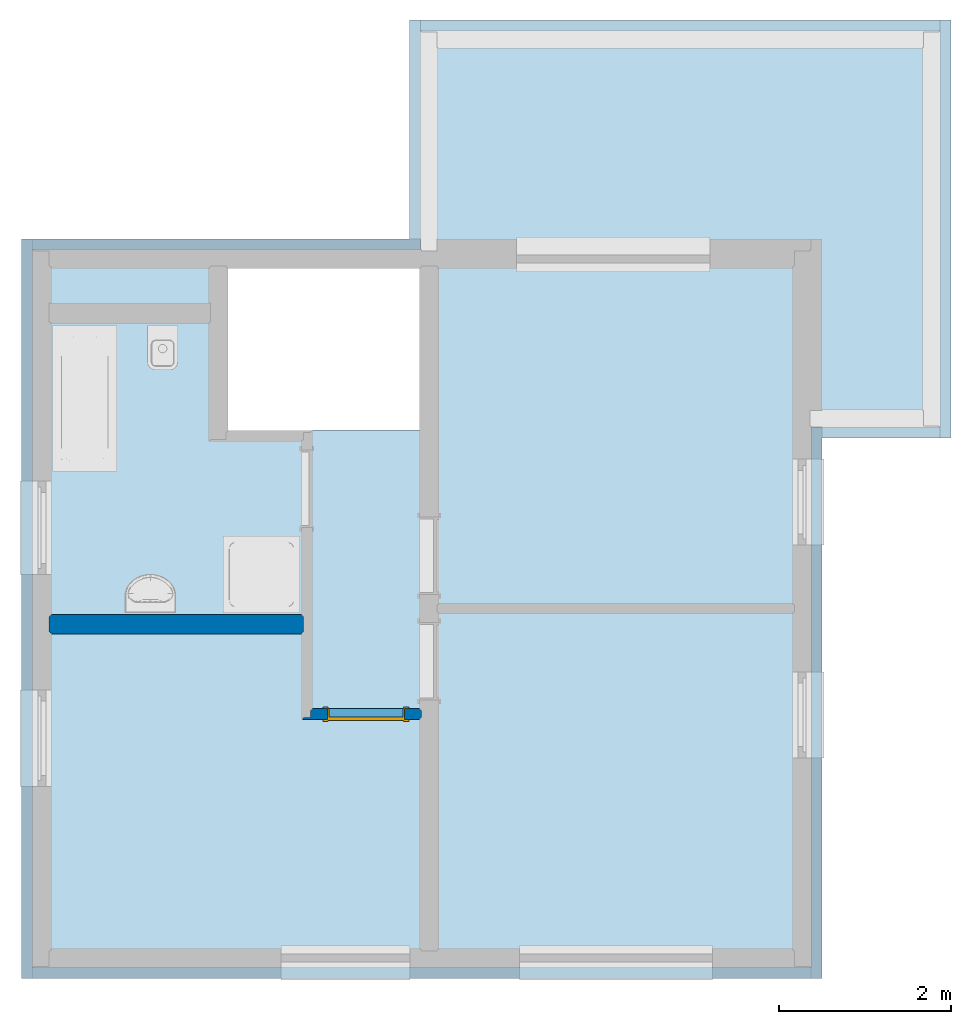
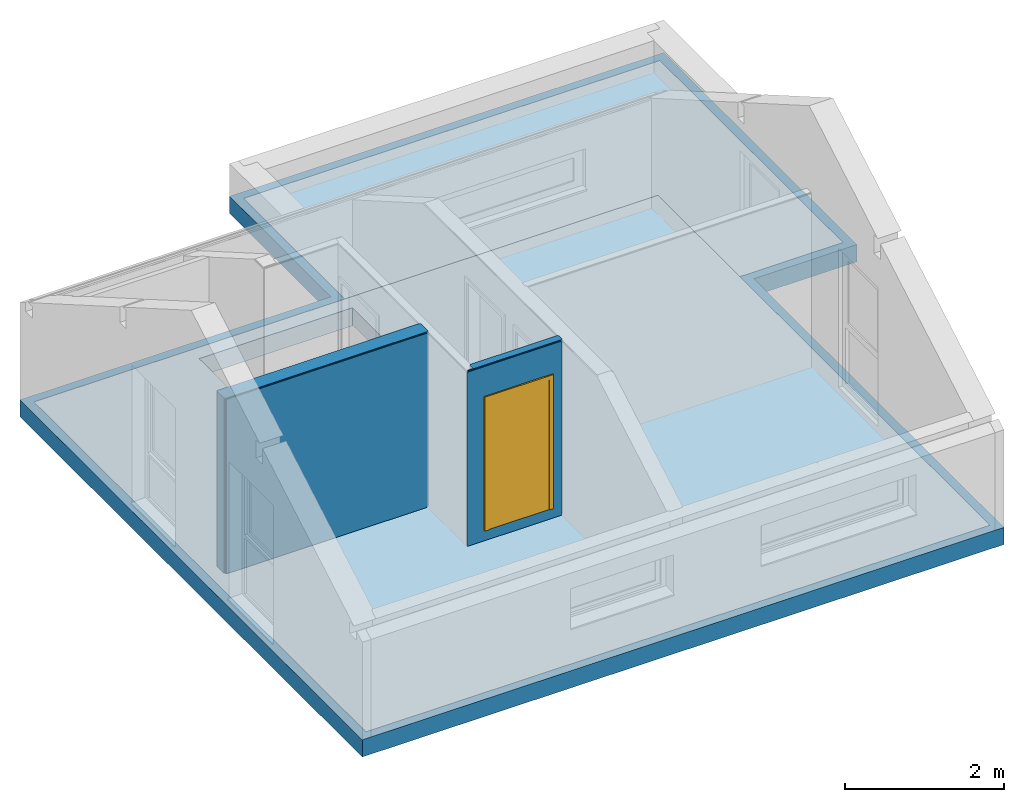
# One storey, part 1 of 7: 3 slabs, 2 walls, 1 door, 3 openings.
"""IFC2X3 building model written with IfcOpenShell, lengths in millimetres."""

from ifc_helpers import new_model, entity, si_unit, converted_unit, derived_unit, money_unit, direction, frame, origin_with_axes, place, context, subcontext, project, spatial, faceted_brep, material, material_list, type_object, element, fill, save


model = new_model("IFC2X3")

# Units and contexts
model_context = context("Model", 3, precision=0.01, world=origin_with_axes(), true_north=direction((0.0, 1.0)))
body_context = subcontext(model_context, "Body", "Model", "MODEL_VIEW")
ifc_project = project(units=[si_unit("LENGTHUNIT", "METRE", prefix="MILLI"), si_unit("AREAUNIT", "SQUARE_METRE"), si_unit("VOLUMEUNIT", "CUBIC_METRE"), converted_unit("PLANEANGLEUNIT", "DEGREE", entity("IfcPlaneAngleMeasure", 0.0174532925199), si_unit("PLANEANGLEUNIT", "RADIAN"), dimensions=[0, 0, 0, 0, 0, 0, 0]), si_unit("SOLIDANGLEUNIT", "STERADIAN"), money_unit("USD"), converted_unit("TIMEUNIT", "Year", entity("IfcTimeMeasure", 31556926.0), si_unit("TIMEUNIT", "SECOND"), dimensions=[0, 0, 1, 0, 0, 0, 0]), si_unit("MASSUNIT", "GRAM", prefix="KILO"), si_unit("THERMODYNAMICTEMPERATUREUNIT", "DEGREE_CELSIUS"), si_unit("LUMINOUSINTENSITYUNIT", "LUMEN"), si_unit("ENERGYUNIT", "JOULE", prefix="MEGA"), derived_unit("THERMALCONDUCTANCEUNIT", [(si_unit("POWERUNIT", "WATT"), 1), (si_unit("LENGTHUNIT", "METRE"), -1), (si_unit("THERMODYNAMICTEMPERATUREUNIT", "KELVIN"), -1)]), derived_unit("SPECIFICHEATCAPACITYUNIT", [(si_unit("ENERGYUNIT", "JOULE"), 1), (si_unit("MASSUNIT", "GRAM", prefix="KILO"), -1), (si_unit("THERMODYNAMICTEMPERATUREUNIT", "KELVIN"), -1)]), derived_unit("MASSDENSITYUNIT", [(si_unit("MASSUNIT", "GRAM", prefix="KILO"), 1), (si_unit("VOLUMEUNIT", "CUBIC_METRE"), -1)])], contexts=[model_context])

# Site, building, storey
site_placement = place(None, origin_with_axes())
site = spatial("IfcSite", under=ifc_project, at=site_placement, Name="Lokalizacja", CompositionType="ELEMENT")
building_placement = place(site_placement, origin_with_axes())
building = spatial("IfcBuilding", under=site, at=building_placement, Name="Budynek", CompositionType="ELEMENT")
storey_placement = place(building_placement, frame((0.0, 0.0, 2954.0), z_axis=(0.0, 0.0, 1.0), x_axis=(1.0, 0.0, 0.0)))
storey = spatial("IfcBuildingStorey", under=building, at=storey_placement, Name="DG", CompositionType="ELEMENT", Elevation=2954.0)

# Slab, opening
ifc_material_1 = material(Name="Płyty styropianowe miękkie")
slab_type_1 = type_object("IfcSlabType", Name="Płyty styropianowe miękkie 264", PredefinedType="FLOOR")
slab_1_placement = place(storey_placement, frame((-344.999999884, 344.999979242, -160.0), z_axis=(0.0, 0.0, 1.0), x_axis=(1.0, 0.0, 0.0)))
slab_1 = element("IfcSlab", 1, at=slab_1_placement, inside=storey, type_object=slab_type_1, material=ifc_material_1, Name="P1", PredefinedType="FLOOR", context=body_context, shape_type="Brep", body=[
    faceted_brep([(0.0, 0.0, 0.0), (0.0, 0.0, -264.0), (0.0, -8619.99726863, -264.0), (0.0, -8619.99726863, 0.0), (4520.00000284, 0.0, 0.0), (4520.00000284, 0.0, -264.0), (4520.00050218, 2550.00002075, -264.0), (10830.0000274, 2549.99885563, -264.0), (10829.9990288, -2319.9999882, -264.0), (9330.00002501, -2319.99965531, -264.0), (9330.00002501, -8619.99726863, -264.0), (9330.00002501, -8619.99726863, 0.0), (9330.00002501, -2319.99965531, 0.0), (10829.9990288, -2319.9999882, 0.0), (10830.0000274, 2549.99885563, 0.0), (4520.00050218, 2550.00002075, 0.0)], [[[0, 1, 2, 3]], [[4, 5, 1, 0]], [[2, 1, 5, 6, 7, 8, 9, 10]], [[3, 2, 10, 11]], [[4, 0, 3, 11, 12, 13, 14, 15]], [[15, 6, 5, 4]], [[14, 7, 6, 15]], [[13, 8, 7, 14]], [[12, 9, 8, 13]], [[11, 10, 9, 12]]]),
])
opening_1_placement = place(slab_1_placement, origin_with_axes())
element("IfcOpeningElement", 2, at=opening_1_placement, cuts=slab_1, Name="Otwór stropu", context=body_context, shape_type="Brep", body=[
    faceted_brep([(4648.00004122, -128.000038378, -264.0), (4648.00004122, 2421.99998237, -264.0), (10701.9999891, 2421.99881725, -264.0), (10701.9991568, -2191.99994982, -264.0), (9201.99998664, -2191.99961693, -264.0), (9201.99882151, -8491.99723025, -264.0), (128.000038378, -8491.99723025, -264.0), (128.000038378, -128.000038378, -264.0), (4648.00004122, -128.000038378, 0.0), (4648.00004122, 2421.99998237, 0.0), (10701.9999891, 2421.99881725, 0.0), (10701.9991568, -2191.99994982, 0.0), (9201.99998664, -2191.99961693, 0.0), (9201.99882151, -8491.99723025, 0.0), (128.000038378, -8491.99723025, 0.0), (128.000038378, -128.000038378, 0.0)], [[[0, 1, 2, 3, 4, 5, 6, 7]], [[8, 9, 1, 0]], [[9, 10, 2, 1]], [[10, 11, 3, 2]], [[11, 12, 4, 3]], [[12, 13, 5, 4]], [[13, 14, 6, 5]], [[14, 15, 7, 6]], [[15, 8, 0, 7]], [[12, 11, 10, 9, 8, 15, 14, 13]]]),
])

# Slab
ifc_material_2 = material(Name="Płyta OSB")
ifc_material_3 = material(Name="Drewno konstrukcyjne")
ifc_material_4 = material(Name="Drewno montażowe")
ifc_material_5 = material(Name="Płyta GK")
ifc_material_list_1 = material_list([ifc_material_2, ifc_material_3, ifc_material_4, ifc_material_5])
slab_type_2 = type_object("IfcSlabType", Name="071- _dan_Strop2_CUBE 276", PredefinedType="FLOOR")
slab_2_placement = place(storey_placement, frame((4303.0, 217.000049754, -160.0), z_axis=(0.0, 0.0, 1.0), x_axis=(1.0, 0.0, 0.0)))
element("IfcSlab", 3, at=slab_2_placement, inside=storey, type_object=slab_type_2, material=ifc_material_list_1, Name="P1", PredefinedType="FLOOR", context=body_context, shape_type="Brep", body=[
    faceted_brep([(4554.00003648, 0.0, -22.0), (4554.00003648, 0.0, 0.0), (0.0, 0.0, 0.0), (0.0, 0.0, -22.0), (4554.00003648, -2064.00004975, -22.0), (4554.00003648, -2064.00004975, 0.0), (6053.99999914, -2064.00004975, 0.0), (6053.99996796, 2549.99994608, 0.0), (0.0, 2549.99995015, 0.0), (0.0, 2549.99995015, -22.0), (6053.99996796, 2549.99994608, -22.0), (6053.99999914, -2064.00004975, -22.0)], [[[0, 1, 2, 3]], [[4, 5, 1, 0]], [[2, 1, 5, 6, 7, 8]], [[3, 2, 8, 9]], [[3, 9, 10, 11, 4, 0]], [[11, 6, 5, 4]], [[10, 7, 6, 11]], [[9, 8, 7, 10]]]),
    faceted_brep([(4554.00003648, 0.0, -242.0), (4554.00003648, 0.0, -22.0), (0.0, 0.0, -22.0), (0.0, 0.0, -242.0), (4554.00003648, -2064.00004975, -242.0), (4554.00003648, -2064.00004975, -22.0), (6053.99999914, -2064.00004975, -22.0), (6053.99996796, 2549.99994608, -22.0), (0.0, 2549.99995015, -22.0), (0.0, 2549.99995015, -242.0), (6053.99996796, 2549.99994608, -242.0), (6053.99999914, -2064.00004975, -242.0)], [[[0, 1, 2, 3]], [[4, 5, 1, 0]], [[2, 1, 5, 6, 7, 8]], [[3, 2, 8, 9]], [[3, 9, 10, 11, 4, 0]], [[11, 6, 5, 4]], [[10, 7, 6, 11]], [[9, 8, 7, 10]]]),
    faceted_brep([(0.0, 0.0, -264.0), (4554.00003648, 0.0, -264.0), (4554.00003648, 0.0, -242.0), (0.0, 0.0, -242.0), (0.0, 2549.99995015, -264.0), (6053.99996796, 2549.99994608, -264.0), (6053.99999914, -2064.00004975, -264.0), (4554.00003648, -2064.00004975, -264.0), (4554.00003648, -2064.00004975, -242.0), (0.0, 2549.99995015, -242.0), (6053.99999914, -2064.00004975, -242.0), (6053.99996796, 2549.99994608, -242.0)], [[[0, 1, 2, 3]], [[1, 0, 4, 5, 6, 7]], [[1, 7, 8, 2]], [[9, 3, 2, 8, 10, 11]], [[4, 0, 3, 9]], [[5, 4, 9, 11]], [[6, 5, 11, 10]], [[7, 6, 10, 8]]]),
    faceted_brep([(4337.0, -2.37707364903e-06, -264.0), (4337.0, 2332.99995025, -264.0), (4507.0, 2332.99995025, -264.0), (4507.0, -5.14850384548e-07, -264.0), (4554.00003648, 0.0, -264.0), (4554.00000341, -1860.00004975, -264.0), (5850.0, -1860.00004975, -264.0), (5850.0, 2345.99995025, -264.0), (204.0, 2345.99995025, -264.0), (204.0, -4.76510040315e-05, -264.0), (4337.0, -2.37707345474e-06, -276.0), (4337.0, 2332.99995025, -276.0), (4507.0, 2332.99995025, -276.0), (4507.0, -5.14850329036e-07, -276.0), (4554.00003648, 0.0, -276.0), (4554.00000341, -1860.00004975, -276.0), (5850.0, -1860.00004975, -276.0), (5850.0, 2345.99995025, -276.0), (204.0, 2345.99995025, -276.0), (204.0, -4.76510040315e-05, -276.0)], [[[0, 1, 2, 3, 4, 5, 6, 7, 8, 9]], [[1, 0, 10, 11]], [[2, 1, 11, 12]], [[3, 2, 12, 13]], [[3, 13, 14, 4]], [[14, 15, 5, 4]], [[15, 16, 6, 5]], [[7, 6, 16, 17]], [[17, 18, 8, 7]], [[19, 9, 8, 18]], [[10, 0, 9, 19]], [[11, 10, 19, 18, 17, 16, 15, 14, 13, 12]]]),
])

# Slab, opening
slab_type_3 = type_object("IfcSlabType", Name="031- _dan_Strop_2 276", PredefinedType="FLOOR")
slab_3_placement = place(storey_placement, frame((-216.999999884, 217.000049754, -160.0), z_axis=(0.0, 0.0, 1.0), x_axis=(1.0, 0.0, 0.0)))
slab_3 = element("IfcSlab", 4, at=slab_3_placement, inside=storey, type_object=slab_type_3, material=ifc_material_list_1, Name="P1", PredefinedType="FLOOR", context=body_context, shape_type="Brep", body=[
    faceted_brep([(0.0, -8363.99733914, -22.0), (0.0, -8363.99733914, 0.0), (0.0, 0.0, 0.0), (0.0, 0.0, -22.0), (9074.00003636, -8363.99733914, -22.0), (9074.00003636, -8363.99733914, 0.0), (9074.00003636, 0.0, 0.0), (9074.00003636, 0.0, -22.0)], [[[0, 1, 2, 3]], [[4, 5, 1, 0]], [[2, 1, 5, 6]], [[3, 2, 6, 7]], [[3, 7, 4, 0]], [[7, 6, 5, 4]]]),
    faceted_brep([(0.0, -8363.99733914, -242.0), (0.0, -8363.99733914, -22.0), (0.0, 0.0, -22.0), (0.0, 0.0, -242.0), (9074.00003636, -8363.99733914, -242.0), (9074.00003636, -8363.99733914, -22.0), (9074.00003636, 0.0, -22.0), (9074.00003636, 0.0, -242.0)], [[[0, 1, 2, 3]], [[4, 5, 1, 0]], [[2, 1, 5, 6]], [[3, 2, 6, 7]], [[3, 7, 4, 0]], [[7, 6, 5, 4]]]),
    faceted_brep([(0.0, 0.0, -264.0), (0.0, -8363.99733914, -264.0), (0.0, -8363.99733914, -242.0), (0.0, 0.0, -242.0), (9074.00003636, 0.0, -264.0), (9074.00003636, -8363.99733914, -264.0), (9074.00003636, -8363.99733914, -242.0), (9074.00003636, 0.0, -242.0)], [[[0, 1, 2, 3]], [[1, 0, 4, 5]], [[1, 5, 6, 2]], [[7, 3, 2, 6]], [[4, 0, 3, 7]], [[5, 4, 7, 6]]]),
    faceted_brep([(4506.99999988, -2497.14175648, -264.0), (4519.99999988, -2497.14175648, -264.0), (4519.99999988, -2105.14174975, -264.0), (4506.99999988, -2105.14174975, -264.0), (4506.99999988, -217.000049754, -264.0), (4506.99999988, -204.000049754, -264.0), (2276.99999988, -204.000049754, -264.0), (2276.99999988, -217.000049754, -264.0), (2276.99999988, -2105.14174975, -264.0), (2263.99999988, -2105.14174975, -264.0), (2263.99999988, -2484.14175648, -264.0), (2251.99999988, -2484.14175648, -264.0), (203.999999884, -2484.14175648, -264.0), (203.999999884, -4550.13700967, -264.0), (2159.99999988, -4550.13700967, -264.0), (2159.99999988, -3897.13700967, -264.0), (2263.99999988, -3897.13700967, -264.0), (2263.99999988, -6184.99991644, -264.0), (3940.00001109, -6184.99991644, -264.0), (3940.00001109, -4114.13700967, -264.0), (3276.99999988, -4114.13700967, -264.0), (3276.99999988, -3910.13700967, -264.0), (4736.99999988, -3910.13700967, -264.0), (4736.99999988, -4114.13700967, -264.0), (4044.00001109, -4114.13700967, -264.0), (4044.00001109, -6184.99991644, -264.0), (4712.00004523, -6184.99991644, -264.0), (4724.00004523, -6184.99991644, -264.0), (4724.00004523, -8159.99995462, -264.0), (8869.99999988, -8159.99995462, -264.0), (8869.99999988, -1860.00004975, -264.0), (8881.99999988, -1860.00004975, -264.0), (9074.0000033, -1860.00004975, -264.0), (9074.00003636, 0.0, -264.0), (9026.99999988, -5.14850384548e-07, -264.0), (9026.99999988, -1847.00004975, -264.0), (8856.99999988, -1847.00004975, -264.0), (8856.99999988, -2.37707364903e-06, -264.0), (4723.99999988, -4.76510035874e-05, -264.0), (4723.99999988, -192.000049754, -264.0), (4723.99999988, -204.000049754, -264.0), (4723.99999988, -2497.14175648, -264.0), (4736.99999988, -2497.14175648, -264.0), (4736.99999988, -3897.13700967, -264.0), (4506.99999988, -3897.13700967, -264.0), (4506.99999988, -6171.99991644, -264.0), (4506.99999988, -4127.13700967, -264.0), (4736.99999988, -4127.13700967, -264.0), (4736.99999988, -6171.99991644, -264.0), (4519.99999988, -2497.14175648, -276.0), (4506.99999988, -2497.14175648, -276.0), (4519.99999988, -2105.14174975, -276.0), (4506.99999988, -2105.14174975, -276.0), (4506.99999988, -217.000049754, -276.0), (4506.99999988, -204.000049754, -276.0), (2276.99999988, -204.000049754, -276.0), (2276.99999988, -217.000049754, -276.0), (2276.99999988, -2105.14174975, -276.0), (2263.99999988, -2105.14174975, -276.0), (2263.99999988, -2484.14175648, -276.0), (2251.99999988, -2484.14175648, -276.0), (203.999999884, -2484.14175648, -276.0), (203.999999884, -4550.13700967, -276.0), (2159.99999988, -4550.13700967, -276.0), (2159.99999988, -3897.13700967, -276.0), (2263.99999988, -3897.13700967, -276.0), (2263.99999988, -6184.99991644, -276.0), (3940.00001109, -6184.99991644, -276.0), (3940.00001109, -4114.13700967, -276.0), (3276.99999988, -4114.13700967, -276.0), (3276.99999988, -3910.13700967, -276.0), (4736.99999988, -3910.13700967, -276.0), (4736.99999988, -4114.13700967, -276.0), (4044.00001109, -4114.13700967, -276.0), (4044.00001109, -6184.99991644, -276.0), (4712.00004523, -6184.99991644, -276.0), (4724.00004523, -6184.99991644, -276.0), (4724.00004523, -8159.99995462, -276.0), (8869.99999988, -8159.99995462, -276.0), (8869.99999988, -1860.00004975, -276.0), (8881.99999988, -1860.00004975, -276.0), (9074.0000033, -1860.00004975, -276.0), (9074.00003636, 0.0, -276.0), (9026.99999988, -5.14850384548e-07, -276.0), (9026.99999988, -1847.00004975, -276.0), (8856.99999988, -1847.00004975, -276.0), (8856.99999988, -2.37707364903e-06, -276.0), (4723.99999988, -4.76510035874e-05, -276.0), (4723.99999988, -192.000049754, -276.0), (4723.99999988, -204.000049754, -276.0), (4723.99999988, -2497.14175648, -276.0), (4736.99999988, -2497.14175648, -276.0), (4736.99999988, -3897.13700967, -276.0), (4506.99999988, -3897.13700967, -276.0), (4506.99999988, -6171.99991644, -276.0), (4506.99999988, -4127.13700967, -276.0), (4736.99999988, -4127.13700967, -276.0), (4736.99999988, -6171.99991644, -276.0)], [[[0, 1, 2, 3, 4, 5, 6, 7, 8, 9, 10, 11, 12, 13, 14, 15, 16, 17, 18, 19, 20, 21, 22, 23, 24, 25, 26, 27, 28, 29, 30, 31, 32, 33, 34, 35, 36, 37, 38, 39, 40, 41, 42, 43, 44], [45, 46, 47, 48]], [[49, 1, 0, 50]], [[1, 49, 51, 2]], [[3, 2, 51, 52]], [[52, 53, 4, 3]], [[5, 4, 53, 54]], [[55, 6, 5, 54]], [[55, 56, 7, 6]], [[57, 8, 7, 56]], [[57, 58, 9, 8]], [[59, 10, 9, 58]], [[59, 60, 11, 10]], [[61, 12, 11, 60]], [[13, 12, 61, 62]], [[62, 63, 14, 13]], [[64, 15, 14, 63]], [[64, 65, 16, 15]], [[65, 66, 17, 16]], [[66, 67, 18, 17]], [[19, 18, 67, 68]], [[20, 19, 68, 69]], [[21, 20, 69, 70]], [[71, 22, 21, 70]], [[22, 71, 72, 23]], [[72, 73, 24, 23]], [[73, 74, 25, 24]], [[74, 75, 26, 25]], [[27, 26, 75, 76]], [[77, 28, 27, 76]], [[29, 28, 77, 78]], [[79, 30, 29, 78]], [[79, 80, 31, 30]], [[80, 81, 32, 31]], [[33, 32, 81, 82]], [[83, 34, 33, 82]], [[35, 34, 83, 84]], [[36, 35, 84, 85]], [[86, 37, 36, 85]], [[37, 86, 87, 38]], [[88, 39, 38, 87]], [[88, 89, 40, 39]], [[90, 41, 40, 89]], [[42, 41, 90, 91]], [[43, 42, 91, 92]], [[44, 43, 92, 93]], [[0, 44, 93, 50]], [[46, 45, 94, 95]], [[47, 46, 95, 96]], [[48, 47, 96, 97]], [[45, 48, 97, 94]], [[91, 90, 89, 88, 87, 86, 85, 84, 83, 82, 81, 80, 79, 78, 77, 76, 75, 74, 73, 72, 71, 70, 69, 68, 67, 66, 65, 64, 63, 62, 61, 60, 59, 58, 57, 56, 55, 54, 53, 52, 51, 49, 50, 93, 92], [94, 97, 96, 95]]]),
    faceted_brep([(2159.99999988, -8159.99995462, -264.0), (2159.99999988, -4754.13700967, -264.0), (203.999999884, -4754.13700967, -264.0), (203.999999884, -8159.99995462, -264.0), (2159.99999988, -4754.13700967, -276.0), (2159.99999988, -8159.99995462, -276.0), (203.999999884, -4754.13700967, -276.0), (203.999999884, -8159.99995462, -276.0)], [[[0, 1, 2, 3]], [[4, 1, 0, 5]], [[1, 4, 6, 2]], [[2, 6, 7, 3]], [[5, 0, 3, 7]], [[4, 5, 7, 6]]]),
    faceted_brep([(203.999999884, -2380.14175648, -264.0), (2059.99999988, -2380.14175648, -264.0), (2059.99999988, -204.000049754, -264.0), (203.999999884, -204.000049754, -264.0), (2059.99999988, -2380.14175648, -276.0), (203.999999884, -2380.14175648, -276.0), (2059.99999988, -204.000049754, -276.0), (203.999999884, -204.000049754, -276.0)], [[[0, 1, 2, 3]], [[4, 1, 0, 5]], [[1, 4, 6, 2]], [[2, 6, 7, 3]], [[5, 0, 3, 7]], [[4, 5, 7, 6]]]),
    faceted_brep([(4520.00004523, -6288.99991644, -276.0), (4520.00004523, -6288.99991644, -264.0), (4520.00004523, -8159.99995462, -264.0), (4520.00004523, -8159.99995462, -276.0), (2263.99999988, -6288.99991644, -264.0), (2263.99999988, -6288.99991644, -276.0), (2263.99999988, -8159.99995462, -264.0), (2263.99999988, -8159.99995462, -276.0)], [[[0, 1, 2, 3]], [[4, 1, 0, 5]], [[1, 4, 6, 2]], [[6, 7, 3, 2]], [[5, 0, 3, 7]], [[4, 5, 7, 6]]]),
])
opening_2_placement = place(slab_3_placement, origin_with_axes())
element("IfcOpeningElement", 5, at=opening_2_placement, cuts=slab_3, Name="Otwór stropu", context=body_context, shape_type="Brep", body=[
    faceted_brep([(4506.99999988, -2105.14174975, -264.0), (4506.99999988, -2105.14174975, -276.0), (4506.99999988, -217.000049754, -276.0), (4506.99999988, -217.000049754, -264.0), (4506.99999989, -217.000049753, 0.0), (4506.99999989, -2105.14174975, 0.0), (2276.99999988, -2105.14174975, -264.0), (2276.99999988, -2105.14174975, -276.0), (2276.99999988, -217.000049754, -276.0), (2276.99999988, -217.000049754, -264.0), (2276.99999989, -217.000049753, 0.0), (2276.99999989, -2105.14174975, 0.0)], [[[0, 1, 2, 3, 4, 5]], [[1, 0, 6, 7]], [[8, 2, 1, 7]], [[3, 2, 8, 9]], [[10, 4, 3, 9]], [[11, 5, 4, 10]], [[5, 11, 6, 0]], [[9, 8, 7, 6, 11, 10]]]),
])

# Wall, opening, door
ifc_material_list_2 = material_list([ifc_material_5, ifc_material_2, ifc_material_3, ifc_material_2, ifc_material_5])
wall_type_1 = type_object("IfcWallType", Name="022- _dan_SD_130 130", PredefinedType="NOTDEFINED")
wall_1_placement = place(storey_placement, frame((4290.0, -5129.99907417, -160.0), z_axis=(0.0, 0.0, 1.0), x_axis=(-1.0, 0.0, 0.0)))
wall_1 = element("IfcWall", 6, at=wall_1_placement, inside=storey, type_object=wall_type_1, material=ifc_material_list_2, Name="SW1", context=body_context, shape_type="Brep", body=[
    faceted_brep([(1362.21251003, 117.0, 2678.0), (0.0, 117.0, 2678.0), (0.0, 117.0, 0.0), (1362.21251003, 117.0, 0.0), (0.0, 130.0, 2678.0), (1362.21251003, 130.0, 2678.0), (0.0, 130.0, 0.0), (1362.21251003, 130.0, 0.0)], [[[0, 1, 2, 3]], [[4, 1, 0, 5]], [[1, 4, 6, 2]], [[7, 3, 2, 6]], [[5, 0, 3, 7]], [[4, 5, 7, 6]]]),
    faceted_brep([(1350.21251003, 117.0, 2690.0), (-13.0, 117.0, 2690.0), (-13.0, 105.0, 2690.0), (1350.21251003, 105.0, 2690.0), (1350.21251003, 117.0, 0.0), (-13.0, 117.0, 0.0), (-13.0, 105.0, 0.0), (1350.21251003, 105.0, 0.0)], [[[0, 1, 2, 3]], [[4, 5, 1, 0]], [[2, 1, 5, 6]], [[3, 2, 6, 7]], [[3, 7, 4, 0]], [[7, 6, 5, 4]]]),
    faceted_brep([(1270.21251003, 105.0, 2690.0), (-25.0, 105.0, 2690.0), (-25.0, 25.0, 2690.0), (1270.21251003, 25.0, 2690.0), (1270.21251003, 105.0, 0.0), (-25.0, 105.0, 0.0), (-25.0, 25.0, 0.0), (1270.21251003, 25.0, 0.0)], [[[0, 1, 2, 3]], [[4, 5, 1, 0]], [[2, 1, 5, 6]], [[3, 2, 6, 7]], [[3, 7, 4, 0]], [[7, 6, 5, 4]]]),
    faceted_brep([(1258.21251003, 25.0, 2690.0), (-13.0, 25.0, 2690.0), (-13.0, 13.0, 2690.0), (1258.21251003, 13.0, 2690.0), (1258.21251003, 25.0, 0.0), (-13.0, 25.0, 0.0), (-13.0, 13.0, 0.0), (1258.21251003, 13.0, 0.0)], [[[0, 1, 2, 3]], [[4, 5, 1, 0]], [[2, 1, 5, 6]], [[3, 2, 6, 7]], [[3, 7, 4, 0]], [[7, 6, 5, 4]]]),
    faceted_brep([(1245.21251003, 0.0, 2678.0), (0.0, 0.0, 2678.0), (0.0, 0.0, 0.0), (1245.21251003, 0.0, 0.0), (0.0, 13.0, 2678.0), (1245.21251003, 13.0, 2678.0), (0.0, 13.0, 0.0), (1245.21251003, 13.0, 0.0)], [[[0, 1, 2, 3]], [[4, 1, 0, 5]], [[1, 4, 6, 2]], [[7, 3, 2, 6]], [[5, 0, 3, 7]], [[4, 5, 7, 6]]]),
])
opening_3_placement = place(wall_1_placement, frame((623.0, 0.0, 160.0), z_axis=(0.0, 0.0, 1.0), x_axis=(1.0, 0.0, 0.0)))
opening_3 = element("IfcOpeningElement", 7, at=opening_3_placement, cuts=wall_1, Name="D5", context=body_context, shape_type="Brep", body=[
    faceted_brep([(-450.0, -260.0, 0.0), (-450.0, -260.0, 2010.0), (-450.0, 130.0, 2010.0), (-450.0, 130.0, 0.0), (450.0, -260.0, 0.0), (450.0, -260.0, 2010.0), (450.0, 130.0, 2010.0), (450.0, 130.0, 0.0)], [[[0, 1, 2, 3]], [[0, 4, 5, 1]], [[1, 5, 6, 2]], [[3, 2, 6, 7]], [[4, 0, 3, 7]], [[5, 4, 7, 6]]]),
    faceted_brep([(-500.0, 130.0, 0.0), (-500.0, 130.0, 2060.0), (-500.0, 260.0, 2060.0), (-500.0, 260.0, 0.0), (500.0, 130.0, 0.0), (500.0, 130.0, 2060.0), (500.0, 260.0, 2060.0), (500.0, 260.0, 0.0)], [[[0, 1, 2, 3]], [[0, 4, 5, 1]], [[1, 5, 6, 2]], [[3, 2, 6, 7]], [[4, 0, 3, 7]], [[5, 4, 7, 6]]]),
    faceted_brep([(-500.0, 0.0, 2060.0), (-500.0, 0.0, 0.0), (-500.0, -130.0, 0.0), (-500.0, -130.0, 2060.0), (500.0, 0.0, 2060.0), (500.0, 0.0, 0.0), (500.0, -130.0, 0.0), (500.0, -130.0, 2060.0)], [[[0, 1, 2, 3]], [[0, 4, 5, 1]], [[1, 5, 6, 2]], [[3, 2, 6, 7]], [[4, 0, 3, 7]], [[5, 4, 7, 6]]]),
])
door_style = type_object("IfcDoorStyle", Name="Drzwi 24", ConstructionType="NOTDEFINED", OperationType="SINGLE_SWING_LEFT", ParameterTakesPrecedence=False, Sizeable=False)
door_placement = place(opening_3_placement, frame((-450.0, 0.0, 0.0), z_axis=(0.0, 0.0, 1.0), x_axis=(1.0, 0.0, 0.0)))
door = element("IfcDoor", 8, at=door_placement, inside=storey, type_object=door_style, Name="D5", OverallHeight=2010.0, OverallWidth=900.0, context=body_context, shape_type="Brep", body=[
    faceted_brep([(950.0, 150.0, 0.0), (950.0, 130.0, 0.0), (890.0, 130.0, 0.0), (890.0, 150.0, 0.0), (950.0, 150.0, 2060.0), (950.0, 130.0, 2060.0), (890.0, 130.0, 2000.0), (890.0, 150.0, 2000.0)], [[[0, 1, 2, 3]], [[4, 5, 1, 0]], [[1, 5, 6, 2]], [[3, 2, 6, 7]], [[0, 3, 7, 4]], [[7, 6, 5, 4]]]),
    faceted_brep([(-50.0, 150.0, 2060.0), (-50.0, 130.0, 2060.0), (10.0, 130.0, 2000.0), (10.0, 150.0, 2000.0), (-50.0, 150.0, 0.0), (-50.0, 130.0, 0.0), (10.0, 130.0, 0.0), (10.0, 150.0, 0.0)], [[[0, 1, 2, 3]], [[4, 5, 1, 0]], [[1, 5, 6, 2]], [[3, 2, 6, 7]], [[0, 3, 7, 4]], [[7, 6, 5, 4]]]),
    faceted_brep([(950.0, 150.0, 2060.0), (950.0, 130.0, 2060.0), (890.0, 130.0, 2000.0), (890.0, 150.0, 2000.0), (-50.0, 150.0, 2060.0), (-50.0, 130.0, 2060.0), (10.0, 130.0, 2000.0), (10.0, 150.0, 2000.0)], [[[0, 1, 2, 3]], [[4, 5, 1, 0]], [[1, 5, 6, 2]], [[3, 2, 6, 7]], [[0, 3, 7, 4]], [[7, 6, 5, 4]]]),
    faceted_brep([(950.0, -20.0, 0.0), (890.0, -20.0, 0.0), (890.0, 0.0, 0.0), (950.0, 0.0, 0.0), (950.0, -20.0, 2060.0), (890.0, -20.0, 2000.0), (890.0, 0.0, 2000.0), (950.0, 0.0, 2060.0)], [[[0, 1, 2, 3]], [[0, 4, 5, 1]], [[1, 5, 6, 2]], [[3, 2, 6, 7]], [[4, 0, 3, 7]], [[5, 4, 7, 6]]]),
    faceted_brep([(-50.0, -20.0, 2060.0), (10.0, -20.0, 2000.0), (10.0, 0.0, 2000.0), (-50.0, 0.0, 2060.0), (-50.0, -20.0, 0.0), (10.0, -20.0, 0.0), (10.0, 0.0, 0.0), (-50.0, 0.0, 0.0)], [[[0, 1, 2, 3]], [[0, 4, 5, 1]], [[1, 5, 6, 2]], [[3, 2, 6, 7]], [[4, 0, 3, 7]], [[5, 4, 7, 6]]]),
    faceted_brep([(950.0, -20.0, 2060.0), (890.0, -20.0, 2000.0), (890.0, 0.0, 2000.0), (950.0, 0.0, 2060.0), (-50.0, -20.0, 2060.0), (10.0, -20.0, 2000.0), (10.0, 0.0, 2000.0), (-50.0, 0.0, 2060.0)], [[[0, 1, 2, 3]], [[0, 4, 5, 1]], [[1, 5, 6, 2]], [[3, 2, 6, 7]], [[4, 0, 3, 7]], [[5, 4, 7, 6]]]),
    faceted_brep([(900.0, 140.0, 0.0), (900.0, 0.0, 0.0), (880.0, 0.0, 0.0), (880.0, 140.0, 0.0), (900.0, 140.0, 1990.0), (900.0, 0.0, 1990.0), (880.0, 0.0, 1990.0), (880.0, 140.0, 1990.0)], [[[0, 1, 2, 3]], [[4, 5, 1, 0]], [[1, 5, 6, 2]], [[3, 2, 6, 7]], [[0, 3, 7, 4]], [[7, 6, 5, 4]]]),
    faceted_brep([(0.0, 140.0, 0.0), (0.0, 0.0, 0.0), (0.0, 0.0, 1990.0), (0.0, 140.0, 1990.0), (20.0, 140.0, 0.0), (20.0, 0.0, 0.0), (20.0, 0.0, 1990.0), (20.0, 140.0, 1990.0)], [[[0, 1, 2, 3]], [[4, 5, 1, 0]], [[1, 5, 6, 2]], [[3, 2, 6, 7]], [[0, 3, 7, 4]], [[7, 6, 5, 4]]]),
    faceted_brep([(900.0, 140.0, 2010.0), (900.0, 0.0, 2010.0), (900.0, 0.0, 1990.0), (900.0, 140.0, 1990.0), (0.0, 140.0, 2010.0), (0.0, 0.0, 2010.0), (0.0, 0.0, 1990.0), (20.0, 0.0, 1990.0), (880.0, 0.0, 1990.0), (880.0, 140.0, 1990.0), (20.0, 140.0, 1990.0), (0.0, 140.0, 1990.0)], [[[0, 1, 2, 3]], [[4, 5, 1, 0]], [[1, 5, 6, 7, 8, 2]], [[3, 2, 8, 9]], [[0, 3, 9, 10, 11, 4]], [[11, 6, 5, 4]], [[10, 7, 6, 11]], [[9, 8, 7, 10]]]),
    faceted_brep([(20.0, 140.0, 0.0), (880.0, 140.0, 0.0), (880.0, 100.0, 0.0), (20.0, 100.0, 0.0), (20.0, 140.0, 1990.0), (880.0, 140.0, 1990.0), (880.0, 100.0, 1990.0), (20.0, 100.0, 1990.0)], [[[0, 1, 2, 3]], [[0, 4, 5, 1]], [[1, 5, 6, 2]], [[3, 2, 6, 7]], [[4, 0, 3, 7]], [[5, 4, 7, 6]]]),
])
fill(opening_3, door)

# Wall
wall_type_2 = type_object("IfcWallType", Name="025- _dan_SW_230 230", PredefinedType="NOTDEFINED")
wall_2_placement = place(storey_placement, frame((3044.78748997, -4033.5279971, -160.0), z_axis=(0.0, 0.0, 1.0), x_axis=(-1.0, 0.0, 0.0)))
element("IfcWall", 9, at=wall_2_placement, inside=storey, type_object=wall_type_2, material=ifc_material_list_2, Name="SW4", context=body_context, shape_type="Brep", body=[
    faceted_brep([(3044.78744467, 217.0, 2678.0), (130.0, 217.0, 2678.0), (130.0, 217.0, 0.0), (3044.78748985, 217.0, 0.0), (130.0, 230.0, 2678.0), (3044.78744467, 230.0, 2678.0), (130.0, 230.0, 0.0), (3044.78748985, 230.0, 0.0)], [[[0, 1, 2, 3]], [[4, 1, 0, 5]], [[1, 4, 6, 2]], [[7, 3, 2, 6]], [[5, 0, 3, 7]], [[4, 5, 7, 6]]]),
    faceted_brep([(3057.78748985, 217.0, 2690.0), (117.0, 217.0, 2690.0), (117.0, 205.0, 2690.0), (3057.78748985, 205.0, 2690.0), (3057.78748985, 217.0, 0.0), (117.0, 217.0, 0.0), (117.0, 205.0, 0.0), (3057.78748985, 205.0, 0.0)], [[[0, 1, 2, 3]], [[4, 5, 1, 0]], [[2, 1, 5, 6]], [[3, 2, 6, 7]], [[3, 7, 4, 0]], [[7, 6, 5, 4]]]),
    faceted_brep([(3069.78748985, 205.0, 2690.0), (105.0, 205.0, 2690.0), (105.0, 25.0, 2690.0), (3069.78748985, 25.0, 2690.0), (3069.78748985, 205.0, 0.0), (105.0, 205.0, 0.0), (105.0, 25.0, 0.0), (3069.78748985, 25.0, 0.0)], [[[0, 1, 2, 3]], [[4, 5, 1, 0]], [[2, 1, 5, 6]], [[3, 2, 6, 7]], [[3, 7, 4, 0]], [[7, 6, 5, 4]]]),
    faceted_brep([(3057.78748985, 25.0, 2690.0), (117.0, 25.0, 2690.0), (117.0, 13.0, 2690.0), (3057.78748985, 13.0, 2690.0), (3057.78748985, 25.0, 0.0), (117.0, 25.0, 0.0), (117.0, 13.0, 0.0), (3057.78748985, 13.0, 0.0)], [[[0, 1, 2, 3]], [[4, 5, 1, 0]], [[2, 1, 5, 6]], [[3, 2, 6, 7]], [[3, 7, 4, 0]], [[7, 6, 5, 4]]]),
    faceted_brep([(3044.78744467, 0.0, 2678.0), (130.0, 0.0, 2678.0), (130.0, 0.0, 0.0), (3044.78748985, 0.0, 0.0), (130.0, 13.0, 2678.0), (3044.78744467, 13.0, 2678.0), (130.0, 13.0, 0.0), (3044.78748985, 13.0, 0.0)], [[[0, 1, 2, 3]], [[4, 1, 0, 5]], [[1, 4, 6, 2]], [[7, 3, 2, 6]], [[5, 0, 3, 7]], [[4, 5, 7, 6]]]),
])

save(model, "model.ifc")
